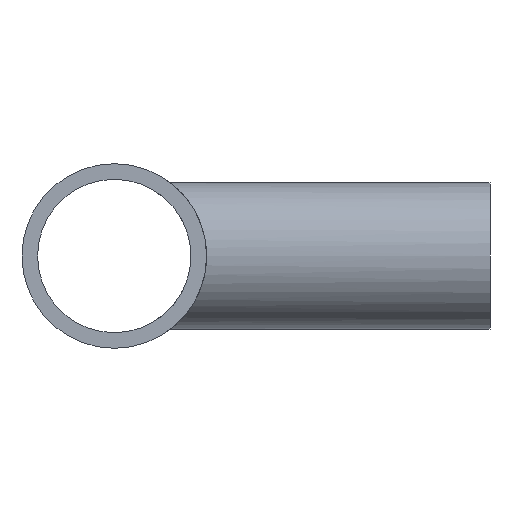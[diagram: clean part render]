
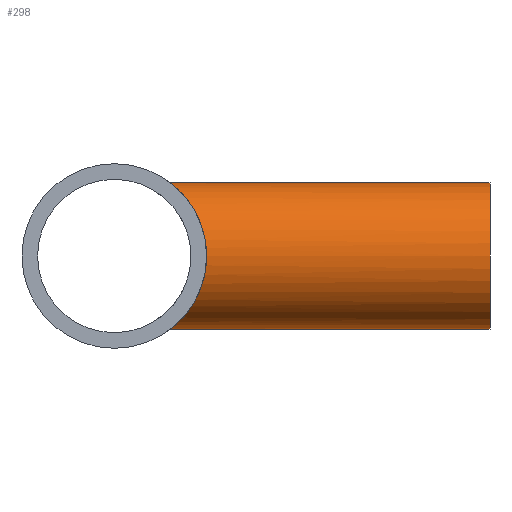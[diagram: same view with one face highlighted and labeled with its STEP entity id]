
A CAD part, left-side view. The second image highlights one B-rep face of the part: STEP entity #298.
In plain terms, the highlighted cylindrical face has radius 16.701 mm (diameter 33.401 mm), a full revolution.
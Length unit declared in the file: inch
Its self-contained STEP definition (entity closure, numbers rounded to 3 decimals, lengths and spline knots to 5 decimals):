
#45=B_SPLINE_CURVE_WITH_KNOTS('',3,(#511,#512,#513,#514,#515,#516,#517,
#518,#519,#520,#521,#522,#523,#524,#525,#526,#527,#528,#529,#530,#531,#532,
#533,#534,#535,#536,#537,#538,#539,#540,#541,#542,#543,#544,#545,#546,#547,
#548,#549,#550,#551,#552,#553,#554,#555,#556,#557,#558,#559,#560),
 .UNSPECIFIED.,.F.,.F.,(4,2,2,2,2,2,2,2,2,2,2,2,2,2,2,2,2,2,2,2,2,2,2,2,
4),(0.,0.3414,0.68281,1.02421,1.36562,
1.69704,2.02846,2.35988,2.69131,3.02273,
3.35415,3.68557,4.017,4.3584,4.6998,
5.04121,5.38261,5.72401,6.06542,6.40682,
6.74823,7.07965,7.41107,7.74249,8.07392),
 .UNSPECIFIED.);
#46=B_SPLINE_CURVE_WITH_KNOTS('',3,(#561,#562,#563,#564,#565,#566,#567,
#568,#569,#570,#571,#572,#573,#574,#575,#576,#577,#578),.UNSPECIFIED.,.F.,
 .F.,(4,2,2,2,2,2,2,2,4),(8.07392,8.40534,8.73676,
9.06818,9.39961,9.74101,10.08241,10.42382,
10.76522),.UNSPECIFIED.);
#56=LINE('',#659,#64);
#64=VECTOR('',#443,0.6575);
#72=CYLINDRICAL_SURFACE('',#352,0.6575);
#95=FACE_OUTER_BOUND('',#118,.T.);
#118=EDGE_LOOP('',(#253,#254,#255,#256,#257));
#140=CIRCLE('',#353,0.6575);
#153=VERTEX_POINT('',#509);
#154=VERTEX_POINT('',#510);
#164=VERTEX_POINT('',#658);
#180=EDGE_CURVE('',#153,#154,#45,.T.);
#181=EDGE_CURVE('',#154,#153,#46,.T.);
#195=EDGE_CURVE('',#154,#164,#56,.T.);
#196=EDGE_CURVE('',#164,#164,#140,.T.);
#253=ORIENTED_EDGE('',*,*,#180,.T.);
#254=ORIENTED_EDGE('',*,*,#195,.T.);
#255=ORIENTED_EDGE('',*,*,#196,.F.);
#256=ORIENTED_EDGE('',*,*,#195,.F.);
#257=ORIENTED_EDGE('',*,*,#181,.T.);
#298=ADVANCED_FACE('',(#95),#72,.T.);
#352=AXIS2_PLACEMENT_3D('',#657,#441,#442);
#353=AXIS2_PLACEMENT_3D('',#660,#444,#445);
#441=DIRECTION('center_axis',(0.,1.,0.));
#442=DIRECTION('ref_axis',(1.,0.,0.));
#443=DIRECTION('',(0.,-1.,0.));
#444=DIRECTION('center_axis',(0.,-1.,0.));
#445=DIRECTION('ref_axis',(1.,0.,0.));
#509=CARTESIAN_POINT('',(0.,-0.50655,-0.6575));
#510=CARTESIAN_POINT('',(-0.6575,-0.83,0.));
#511=CARTESIAN_POINT('Ctrl Pts',(0.,-0.50655,
-0.6575));
#512=CARTESIAN_POINT('Ctrl Pts',(0.0448,-0.50655,
-0.6575));
#513=CARTESIAN_POINT('Ctrl Pts',(0.08933,-0.51267,
-0.65289));
#514=CARTESIAN_POINT('Ctrl Pts',(0.17567,-0.53452,-0.63513));
#515=CARTESIAN_POINT('Ctrl Pts',(0.2175,-0.55013,-0.62198));
#516=CARTESIAN_POINT('Ctrl Pts',(0.29692,-0.58609,-0.58823));
#517=CARTESIAN_POINT('Ctrl Pts',(0.33456,-0.60641,-0.56758));
#518=CARTESIAN_POINT('Ctrl Pts',(0.40428,-0.64749,-0.52023));
#519=CARTESIAN_POINT('Ctrl Pts',(0.43634,-0.66824,-0.4935));
#520=CARTESIAN_POINT('Ctrl Pts',(0.49267,-0.70633,-0.43718));
#521=CARTESIAN_POINT('Ctrl Pts',(0.5192,-0.72519,-0.40561));
#522=CARTESIAN_POINT('Ctrl Pts',(0.56674,-0.75995,-0.33599));
#523=CARTESIAN_POINT('Ctrl Pts',(0.58776,-0.77584,-0.29793));
#524=CARTESIAN_POINT('Ctrl Pts',(0.62208,-0.80215,-0.21736));
#525=CARTESIAN_POINT('Ctrl Pts',(0.6354,-0.81259,-0.17476));
#526=CARTESIAN_POINT('Ctrl Pts',(0.65312,-0.82651,-0.08783));
#527=CARTESIAN_POINT('Ctrl Pts',(0.6575,-0.83,-0.04349));
#528=CARTESIAN_POINT('Ctrl Pts',(0.6575,-0.83,0.04349));
#529=CARTESIAN_POINT('Ctrl Pts',(0.65312,-0.82651,0.08783));
#530=CARTESIAN_POINT('Ctrl Pts',(0.6354,-0.81259,0.17476));
#531=CARTESIAN_POINT('Ctrl Pts',(0.62208,-0.80215,0.21736));
#532=CARTESIAN_POINT('Ctrl Pts',(0.58776,-0.77584,0.29793));
#533=CARTESIAN_POINT('Ctrl Pts',(0.56674,-0.75995,0.33599));
#534=CARTESIAN_POINT('Ctrl Pts',(0.5192,-0.72519,0.40561));
#535=CARTESIAN_POINT('Ctrl Pts',(0.49267,-0.70633,0.43718));
#536=CARTESIAN_POINT('Ctrl Pts',(0.43634,-0.66824,0.4935));
#537=CARTESIAN_POINT('Ctrl Pts',(0.40428,-0.64749,0.52023));
#538=CARTESIAN_POINT('Ctrl Pts',(0.33456,-0.60641,0.56758));
#539=CARTESIAN_POINT('Ctrl Pts',(0.29692,-0.58609,0.58823));
#540=CARTESIAN_POINT('Ctrl Pts',(0.2175,-0.55013,0.62198));
#541=CARTESIAN_POINT('Ctrl Pts',(0.17567,-0.53452,0.63513));
#542=CARTESIAN_POINT('Ctrl Pts',(0.08933,-0.51267,
0.65289));
#543=CARTESIAN_POINT('Ctrl Pts',(0.0448,-0.50655,
0.6575));
#544=CARTESIAN_POINT('Ctrl Pts',(-0.0448,-0.50655,
0.6575));
#545=CARTESIAN_POINT('Ctrl Pts',(-0.08933,-0.51267,
0.65289));
#546=CARTESIAN_POINT('Ctrl Pts',(-0.17567,-0.53452,0.63513));
#547=CARTESIAN_POINT('Ctrl Pts',(-0.2175,-0.55013,
0.62198));
#548=CARTESIAN_POINT('Ctrl Pts',(-0.29692,-0.58609,
0.58823));
#549=CARTESIAN_POINT('Ctrl Pts',(-0.33456,-0.60641,
0.56758));
#550=CARTESIAN_POINT('Ctrl Pts',(-0.40428,-0.64749,
0.52023));
#551=CARTESIAN_POINT('Ctrl Pts',(-0.43634,-0.66824,
0.4935));
#552=CARTESIAN_POINT('Ctrl Pts',(-0.49267,-0.70633,
0.43718));
#553=CARTESIAN_POINT('Ctrl Pts',(-0.5192,-0.72519,0.40561));
#554=CARTESIAN_POINT('Ctrl Pts',(-0.56674,-0.75995,
0.33599));
#555=CARTESIAN_POINT('Ctrl Pts',(-0.58776,-0.77584,
0.29793));
#556=CARTESIAN_POINT('Ctrl Pts',(-0.62208,-0.80215,0.21736));
#557=CARTESIAN_POINT('Ctrl Pts',(-0.6354,-0.81259,0.17476));
#558=CARTESIAN_POINT('Ctrl Pts',(-0.65312,-0.82651,
0.08783));
#559=CARTESIAN_POINT('Ctrl Pts',(-0.6575,-0.83,0.04349));
#560=CARTESIAN_POINT('Ctrl Pts',(-0.6575,-0.83,0.));
#561=CARTESIAN_POINT('Ctrl Pts',(-0.6575,-0.83,0.));
#562=CARTESIAN_POINT('Ctrl Pts',(-0.6575,-0.83,-0.04349));
#563=CARTESIAN_POINT('Ctrl Pts',(-0.65312,-0.82651,
-0.08783));
#564=CARTESIAN_POINT('Ctrl Pts',(-0.6354,-0.81259,-0.17476));
#565=CARTESIAN_POINT('Ctrl Pts',(-0.62208,-0.80215,-0.21736));
#566=CARTESIAN_POINT('Ctrl Pts',(-0.58776,-0.77584,
-0.29793));
#567=CARTESIAN_POINT('Ctrl Pts',(-0.56674,-0.75995,
-0.33599));
#568=CARTESIAN_POINT('Ctrl Pts',(-0.5192,-0.72519,-0.40561));
#569=CARTESIAN_POINT('Ctrl Pts',(-0.49267,-0.70633,
-0.43718));
#570=CARTESIAN_POINT('Ctrl Pts',(-0.43634,-0.66824,
-0.4935));
#571=CARTESIAN_POINT('Ctrl Pts',(-0.40428,-0.64749,
-0.52023));
#572=CARTESIAN_POINT('Ctrl Pts',(-0.33456,-0.60641,
-0.56758));
#573=CARTESIAN_POINT('Ctrl Pts',(-0.29692,-0.58609,
-0.58823));
#574=CARTESIAN_POINT('Ctrl Pts',(-0.2175,-0.55013,
-0.62198));
#575=CARTESIAN_POINT('Ctrl Pts',(-0.17567,-0.53452,-0.63513));
#576=CARTESIAN_POINT('Ctrl Pts',(-0.08933,-0.51267,
-0.65289));
#577=CARTESIAN_POINT('Ctrl Pts',(-0.0448,-0.50655,
-0.6575));
#578=CARTESIAN_POINT('Ctrl Pts',(0.,-0.50655,
-0.6575));
#657=CARTESIAN_POINT('Origin',(0.,-3.38,0.));
#658=CARTESIAN_POINT('',(-0.6575,-3.38,0.));
#659=CARTESIAN_POINT('',(-0.6575,-3.38,0.));
#660=CARTESIAN_POINT('Origin',(0.,-3.38,0.));
